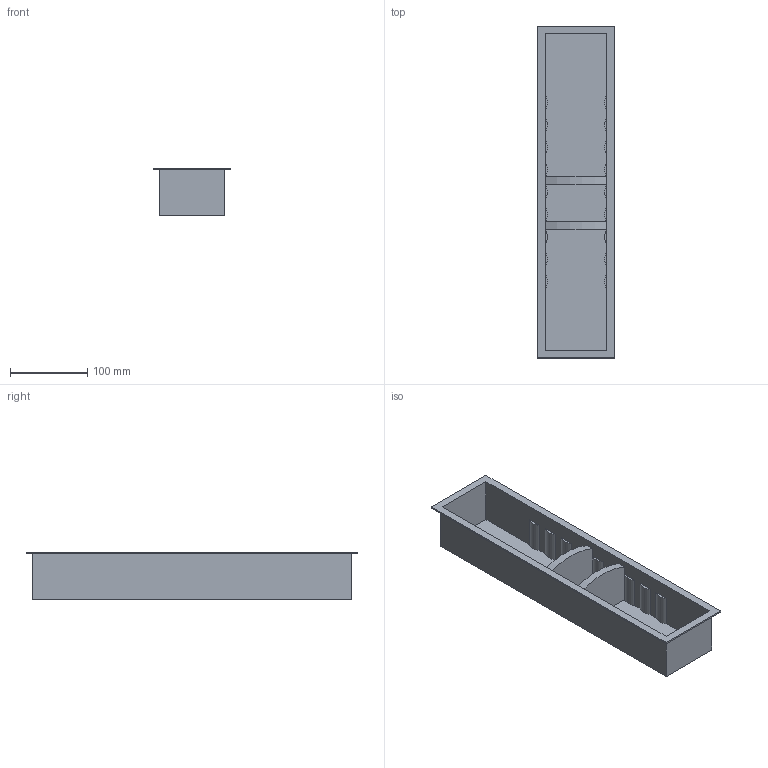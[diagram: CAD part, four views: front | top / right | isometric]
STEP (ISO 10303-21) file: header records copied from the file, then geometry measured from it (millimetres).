
FILE_DESCRIPTION (( 'STEP AP214' ), '1' );
FILE_NAME ('Vario-Schale_NL450.step', '2010-10-29T10:18:46', ( 'grass' ), ( '' ), 'SwSTEP 2.0', 'SolidWorks 2010', '' );
FILE_SCHEMA (( 'AUTOMOTIVE_DESIGN' ));
Length unit declared in the file: millimetre
Products named in the file (1): Vario-Schale_NL450
Bounding box: 100 x 429 x 62 mm (x, y, z)
Volume: 323425.2 mm3; surface area: 223425.3 mm2
Topology: 1 solids, 1 shells, 60 faces, 166 edges, 110 vertices
Faces by surface type: plane 40, cylinder 20
Entity records: 1948 total; most frequent: CARTESIAN_POINT 337, ORIENTED_EDGE 332, DIRECTION 328, EDGE_CURVE 166, LINE 126, VECTOR 126, VERTEX_POINT 110, AXIS2_PLACEMENT_3D 101
